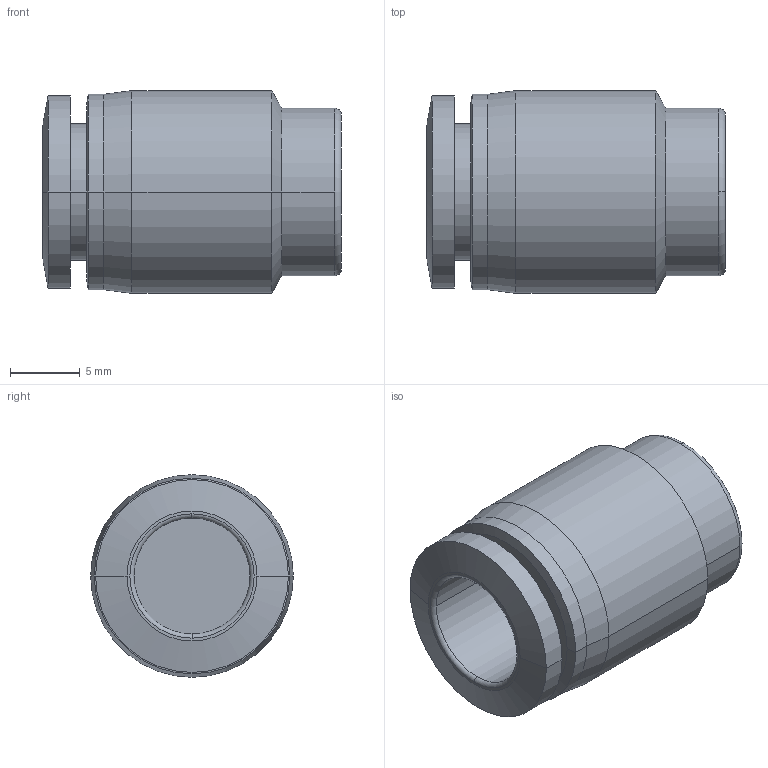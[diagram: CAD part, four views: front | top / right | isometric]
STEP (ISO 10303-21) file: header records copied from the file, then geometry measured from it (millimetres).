
FILE_DESCRIPTION (( 'STEP AP203' ), '1' );
FILE_NAME ('FC08-00.STEP', '2020-05-13T10:09:56', ( '' ), ( '' ), 'SwSTEP 2.0', 'SolidWorks 2019', '' );
FILE_SCHEMA (( 'CONFIG_CONTROL_DESIGN' ));
Length unit declared in the file: millimetre
Products named in the file (1): FC08-00
Bounding box: 21.4 x 14.5 x 14.5 mm (x, y, z)
Volume: 2120.2 mm3; surface area: 1803.8 mm2
Topology: 1 solids, 1 shells, 29 faces, 60 edges, 36 vertices
Faces by surface type: cylinder 12, cone 8, plane 5, torus 4
Entity records: 855 total; most frequent: DIRECTION 160, CARTESIAN_POINT 126, ORIENTED_EDGE 120, AXIS2_PLACEMENT_3D 70, EDGE_CURVE 60, CIRCLE 40, VERTEX_POINT 36, EDGE_LOOP 32
